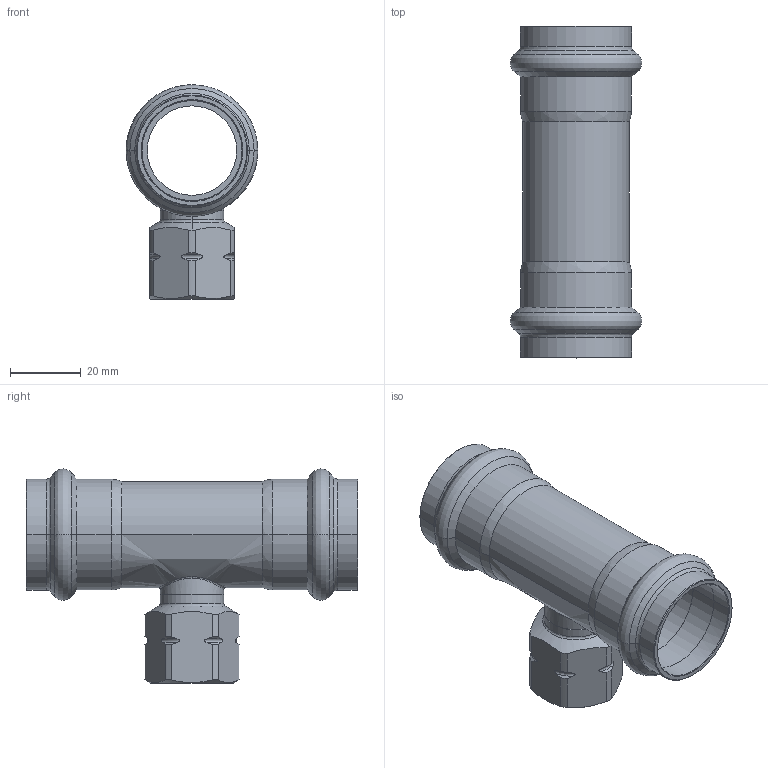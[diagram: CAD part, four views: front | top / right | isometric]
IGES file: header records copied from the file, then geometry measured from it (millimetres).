
Start section: Elysium IGES Interface
Global section: file name: C:\3d modellen sudo\C-Pr VP\SP8130GV\8130GVW281228.igs; native system: CoCreate Modeling 17.00A  17-Jun-2010; preprocessor: CoCreate IGES_3D V2.2; author: Unknown; organization: Unknown; date: 20130212.114252; units: millimetre
Bounding box: 37.2 x 93.81 x 60.59 mm (x, y, z)
Volume: 21377.2 mm3; surface area: 22261.7 mm2
Topology: 1 solids, 1 shells, 137 faces, 326 edges, 196 vertices
Faces by surface type: bspline 137
